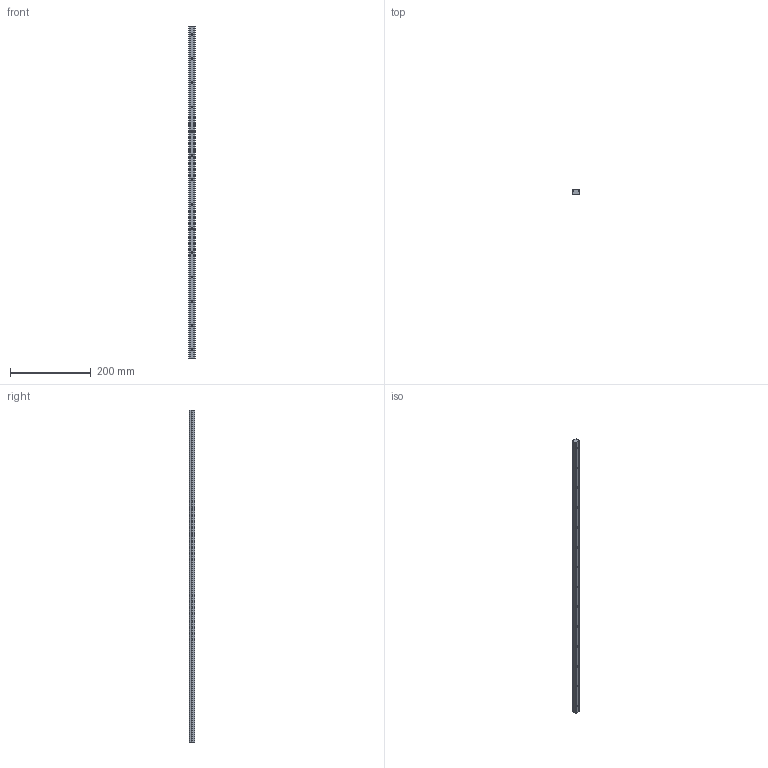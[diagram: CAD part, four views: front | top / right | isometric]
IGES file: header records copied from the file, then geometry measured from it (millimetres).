
Start section: SolidWorks IGES file using analytic representation for surfaces
Global section: file name: C:\Users\IanO\Desktop\L1016_v2\L1016.BL15_v2\L1016.BL15_v2_20190611_IGES\L1016.BL15-0820.igs; native system: SolidWorks 2017; preprocessor: SolidWorks 2017; author: IanO; date: 190612.122648; units: millimetre
Bounding box: 15 x 13 x 820 mm (x, y, z)
Surface area: 50382 mm2 (no closed solid volume)
Topology: 0 solids, 0 shells, 96 faces, 2168 edges, 2168 vertices
Faces by surface type: revolution 60, bspline 36
